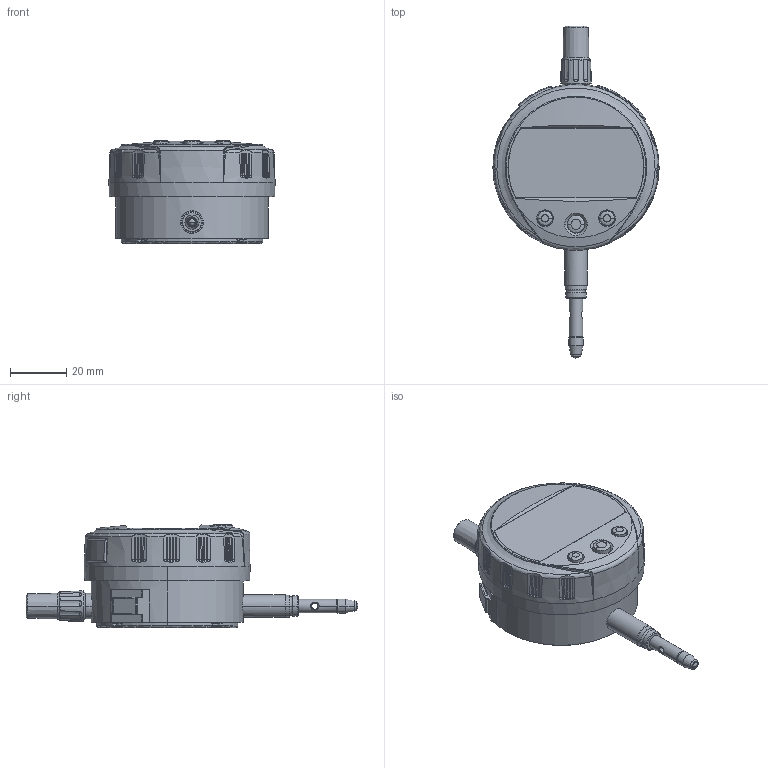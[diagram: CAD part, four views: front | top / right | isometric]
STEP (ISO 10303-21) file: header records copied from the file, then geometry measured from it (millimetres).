
FILE_DESCRIPTION(('Creo Elements/Direct Modeling STEP Export'),'2;1');
FILE_NAME('543-394B_ID-C112CXB.stp','2020-04-13T15:47:51',(''),(''),'Creo Elements/Direct Modeling STEP processor for AP214 (Solid Model)','Creo Elements/Direct Modeling 18.1I 13-Aug-2016 (C) Parametric Technology GmbH','');
FILE_SCHEMA(('AUTOMOTIVE_DESIGN { 1 0 10303 214 1 1 1 1 }'));
Length unit declared in the file: millimetre
Products named in the file (1): Top
Bounding box: 59 x 117.8 x 36.55 mm (x, y, z)
Volume: 90366 mm3; surface area: 14971.6 mm2
Topology: 1 solids, 1 shells, 632 faces, 1764 edges, 1109 vertices
Faces by surface type: cylinder 190, plane 132, cone 108, bspline 101, torus 89, sphere 12
Entity records: 35633 total; most frequent: CARTESIAN_POINT 21071, ORIENTED_EDGE 3432, DIRECTION 2526, EDGE_CURVE 1716, VERTEX_POINT 1109, AXIS2_PLACEMENT_3D 1032, EDGE_LOOP 657, FACE_OUTER_BOUND 632
